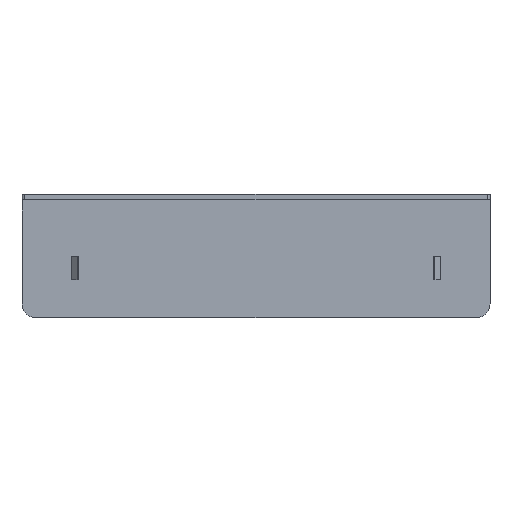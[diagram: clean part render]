
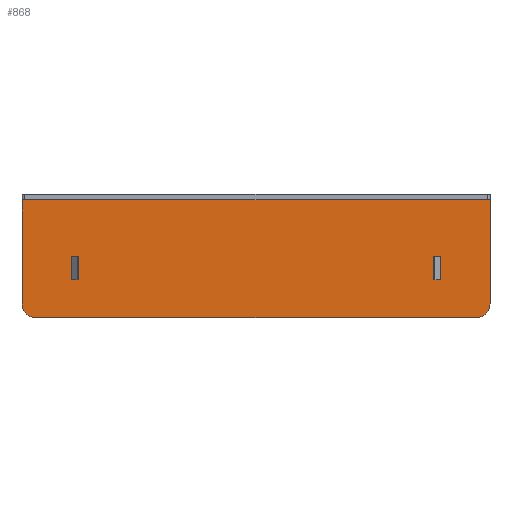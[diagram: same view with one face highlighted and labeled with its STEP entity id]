
A CAD part, top view. The second image highlights one B-rep face of the part: STEP entity #868.
In plain terms, the highlighted planar face has unit normal (0, 0, 1).
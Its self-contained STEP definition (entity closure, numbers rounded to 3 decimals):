
#5 = CARTESIAN_POINT ( 'NONE',  ( 1872.377, 1173.493, 579.8 ) ) ;
#69 = CARTESIAN_POINT ( 'NONE',  ( 1742.977, 1181.993, 579.8 ) ) ;
#130 = LINE ( 'NONE', #657, #814 ) ;
#134 = CARTESIAN_POINT ( 'NONE',  ( 1722.177, 1164.693, 579.8 ) ) ;
#145 = EDGE_LOOP ( 'NONE', ( #1880, #751, #231, #1696 ) ) ;
#155 = EDGE_CURVE ( 'NONE', #1295, #1753, #2148, .T. ) ;
#190 = CARTESIAN_POINT ( 'NONE',  ( 1722.177, 1202.693, 579.8 ) ) ;
#198 = DIRECTION ( 'NONE',  ( -1., 0., 0. ) ) ;
#217 = EDGE_CURVE ( 'NONE', #1141, #2028, #1740, .T. ) ;
#228 = DIRECTION ( 'NONE',  ( 0., -1., 0. ) ) ;
#231 = ORIENTED_EDGE ( 'NONE', *, *, #2218, .F. ) ;
#233 = DIRECTION ( 'NONE',  ( 0., 0., 1. ) ) ;
#252 = AXIS2_PLACEMENT_3D ( 'NONE', #2064, #1488, #2437 ) ;
#260 = VECTOR ( 'NONE', #562, 1000. ) ;
#286 = EDGE_CURVE ( 'NONE', #1686, #830, #1766, .T. ) ;
#299 = ORIENTED_EDGE ( 'NONE', *, *, #2039, .T. ) ;
#305 = CARTESIAN_POINT ( 'NONE',  ( 1888.177, 1159.693, 579.8 ) ) ;
#318 = LINE ( 'NONE', #2430, #846 ) ;
#319 = LINE ( 'NONE', #713, #1064 ) ;
#338 = AXIS2_PLACEMENT_3D ( 'NONE', #2167, #233, #1585 ) ;
#344 = DIRECTION ( 'NONE',  ( 1., 0., 0. ) ) ;
#345 = LINE ( 'NONE', #1144, #1673 ) ;
#358 = CARTESIAN_POINT ( 'NONE',  ( 1741.277, 1182.493, 579.8 ) ) ;
#378 = CARTESIAN_POINT ( 'NONE',  ( 1741.477, 1173.493, 579.8 ) ) ;
#383 = ORIENTED_EDGE ( 'NONE', *, *, #2394, .T. ) ;
#442 = CARTESIAN_POINT ( 'NONE',  ( 1722.177, 1159.693, 579.8 ) ) ;
#452 = DIRECTION ( 'NONE',  ( 0., 1., 0. ) ) ;
#518 = DIRECTION ( 'NONE',  ( 0., 1., 0. ) ) ;
#537 = VERTEX_POINT ( 'NONE', #1243 ) ;
#548 = VECTOR ( 'NONE', #452, 1000. ) ;
#550 = CARTESIAN_POINT ( 'NONE',  ( 1893.177, 1202.693, 579.8 ) ) ;
#551 = LINE ( 'NONE', #1858, #1314 ) ;
#557 = CIRCLE ( 'NONE', #252, 5. ) ;
#562 = DIRECTION ( 'NONE',  ( 1., 0., 0. ) ) ;
#564 = EDGE_CURVE ( 'NONE', #2032, #537, #557, .T. ) ;
#566 = DIRECTION ( 'NONE',  ( 0., -1., 0. ) ) ;
#610 = LINE ( 'NONE', #358, #1240 ) ;
#627 = CARTESIAN_POINT ( 'NONE',  ( 1742.977, 1173.493, 579.8 ) ) ;
#635 = LINE ( 'NONE', #442, #759 ) ;
#657 = CARTESIAN_POINT ( 'NONE',  ( 1741.477, 1181.993, 579.8 ) ) ;
#658 = ORIENTED_EDGE ( 'NONE', *, *, #217, .T. ) ;
#713 = CARTESIAN_POINT ( 'NONE',  ( 1874.077, 1182.493, 579.8 ) ) ;
#717 = VERTEX_POINT ( 'NONE', #919 ) ;
#725 = ORIENTED_EDGE ( 'NONE', *, *, #2467, .T. ) ;
#751 = ORIENTED_EDGE ( 'NONE', *, *, #155, .F. ) ;
#752 = ORIENTED_EDGE ( 'NONE', *, *, #1545, .F. ) ;
#759 = VECTOR ( 'NONE', #827, 1000. ) ;
#766 = PLANE ( 'NONE',  #338 ) ;
#814 = VECTOR ( 'NONE', #2022, 1000. ) ;
#815 = CARTESIAN_POINT ( 'NONE',  ( 1874.077, 1173.493, 579.8 ) ) ;
#827 = DIRECTION ( 'NONE',  ( 0., -1., 0. ) ) ;
#830 = VERTEX_POINT ( 'NONE', #815 ) ;
#846 = VECTOR ( 'NONE', #344, 1000. ) ;
#868 = ADVANCED_FACE ( 'NONE', ( #2293, #1344, #1710 ), #766, .T. ) ;
#889 = VERTEX_POINT ( 'NONE', #1008 ) ;
#919 = CARTESIAN_POINT ( 'NONE',  ( 1872.377, 1181.993, 579.8 ) ) ;
#940 = CARTESIAN_POINT ( 'NONE',  ( 1873.877, 1173.493, 579.8 ) ) ;
#989 = VERTEX_POINT ( 'NONE', #1645 ) ;
#992 = LINE ( 'NONE', #2404, #548 ) ;
#1008 = CARTESIAN_POINT ( 'NONE',  ( 1741.277, 1173.493, 579.8 ) ) ;
#1033 = CARTESIAN_POINT ( 'NONE',  ( 1741.277, 1181.993, 579.8 ) ) ;
#1043 = CARTESIAN_POINT ( 'NONE',  ( 1722.177, 1202.693, 579.8 ) ) ;
#1051 = EDGE_CURVE ( 'NONE', #2037, #717, #551, .T. ) ;
#1062 = CIRCLE ( 'NONE', #1430, 5. ) ;
#1064 = VECTOR ( 'NONE', #518, 1000. ) ;
#1122 = EDGE_CURVE ( 'NONE', #830, #2037, #319, .T. ) ;
#1139 = VERTEX_POINT ( 'NONE', #134 ) ;
#1141 = VERTEX_POINT ( 'NONE', #550 ) ;
#1144 = CARTESIAN_POINT ( 'NONE',  ( 1872.377, 1182.493, 579.8 ) ) ;
#1153 = CARTESIAN_POINT ( 'NONE',  ( 1727.177, 1164.693, 579.8 ) ) ;
#1172 = ORIENTED_EDGE ( 'NONE', *, *, #286, .F. ) ;
#1176 = ORIENTED_EDGE ( 'NONE', *, *, #1051, .F. ) ;
#1240 = VECTOR ( 'NONE', #228, 1000. ) ;
#1243 = CARTESIAN_POINT ( 'NONE',  ( 1893.177, 1164.693, 579.8 ) ) ;
#1268 = CARTESIAN_POINT ( 'NONE',  ( 1874.077, 1181.993, 579.8 ) ) ;
#1295 = VERTEX_POINT ( 'NONE', #627 ) ;
#1313 = DIRECTION ( 'NONE',  ( 0., 1., 0. ) ) ;
#1314 = VECTOR ( 'NONE', #1494, 1000. ) ;
#1344 = FACE_BOUND ( 'NONE', #2180, .T. ) ;
#1349 = DIRECTION ( 'NONE',  ( 1., 0., 0. ) ) ;
#1430 = AXIS2_PLACEMENT_3D ( 'NONE', #1153, #2533, #1349 ) ;
#1488 = DIRECTION ( 'NONE',  ( 0., 0., 1. ) ) ;
#1494 = DIRECTION ( 'NONE',  ( -1., 0., 0. ) ) ;
#1545 = EDGE_CURVE ( 'NONE', #717, #1686, #345, .T. ) ;
#1585 = DIRECTION ( 'NONE',  ( 1., 0., 0. ) ) ;
#1645 = CARTESIAN_POINT ( 'NONE',  ( 1727.177, 1159.693, 579.8 ) ) ;
#1667 = VECTOR ( 'NONE', #2504, 1000. ) ;
#1673 = VECTOR ( 'NONE', #566, 1000. ) ;
#1686 = VERTEX_POINT ( 'NONE', #5 ) ;
#1696 = ORIENTED_EDGE ( 'NONE', *, *, #2251, .F. ) ;
#1710 = FACE_BOUND ( 'NONE', #145, .T. ) ;
#1738 = EDGE_CURVE ( 'NONE', #1139, #989, #1062, .T. ) ;
#1740 = LINE ( 'NONE', #190, #2453 ) ;
#1753 = VERTEX_POINT ( 'NONE', #69 ) ;
#1766 = LINE ( 'NONE', #940, #260 ) ;
#1781 = ORIENTED_EDGE ( 'NONE', *, *, #564, .T. ) ;
#1842 = ORIENTED_EDGE ( 'NONE', *, *, #1738, .T. ) ;
#1858 = CARTESIAN_POINT ( 'NONE',  ( 1873.877, 1181.993, 579.8 ) ) ;
#1865 = VECTOR ( 'NONE', #1313, 1000. ) ;
#1880 = ORIENTED_EDGE ( 'NONE', *, *, #2021, .F. ) ;
#1889 = CARTESIAN_POINT ( 'NONE',  ( 1742.977, 1182.493, 579.8 ) ) ;
#1957 = VERTEX_POINT ( 'NONE', #1033 ) ;
#1974 = LINE ( 'NONE', #378, #1667 ) ;
#2021 = EDGE_CURVE ( 'NONE', #1753, #1957, #130, .T. ) ;
#2022 = DIRECTION ( 'NONE',  ( -1., 0., 0. ) ) ;
#2028 = VERTEX_POINT ( 'NONE', #1043 ) ;
#2032 = VERTEX_POINT ( 'NONE', #305 ) ;
#2037 = VERTEX_POINT ( 'NONE', #1268 ) ;
#2039 = EDGE_CURVE ( 'NONE', #989, #2032, #318, .T. ) ;
#2064 = CARTESIAN_POINT ( 'NONE',  ( 1888.177, 1164.693, 579.8 ) ) ;
#2148 = LINE ( 'NONE', #1889, #1865 ) ;
#2167 = CARTESIAN_POINT ( 'NONE',  ( 1722.177, 1159.693, 579.8 ) ) ;
#2180 = EDGE_LOOP ( 'NONE', ( #1172, #752, #1176, #2363 ) ) ;
#2218 = EDGE_CURVE ( 'NONE', #889, #1295, #1974, .T. ) ;
#2251 = EDGE_CURVE ( 'NONE', #1957, #889, #610, .T. ) ;
#2293 = FACE_OUTER_BOUND ( 'NONE', #2466, .T. ) ;
#2363 = ORIENTED_EDGE ( 'NONE', *, *, #1122, .F. ) ;
#2394 = EDGE_CURVE ( 'NONE', #2028, #1139, #635, .T. ) ;
#2404 = CARTESIAN_POINT ( 'NONE',  ( 1893.177, 1159.693, 579.8 ) ) ;
#2430 = CARTESIAN_POINT ( 'NONE',  ( 1722.177, 1159.693, 579.8 ) ) ;
#2437 = DIRECTION ( 'NONE',  ( -1., 0., 0. ) ) ;
#2453 = VECTOR ( 'NONE', #198, 1000. ) ;
#2466 = EDGE_LOOP ( 'NONE', ( #725, #658, #383, #1842, #299, #1781 ) ) ;
#2467 = EDGE_CURVE ( 'NONE', #537, #1141, #992, .T. ) ;
#2504 = DIRECTION ( 'NONE',  ( 1., 0., 0. ) ) ;
#2533 = DIRECTION ( 'NONE',  ( 0., 0., 1. ) ) ;
